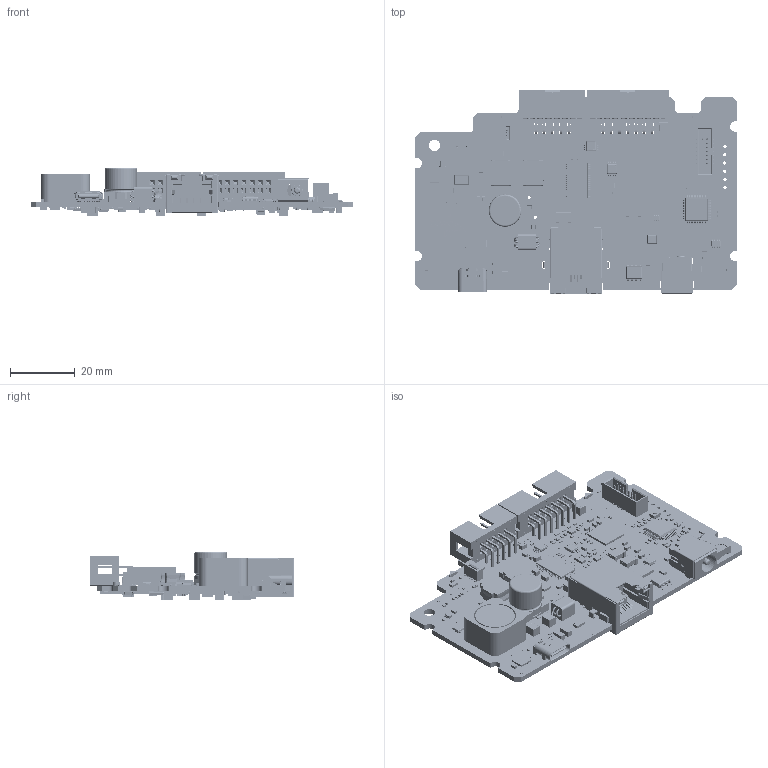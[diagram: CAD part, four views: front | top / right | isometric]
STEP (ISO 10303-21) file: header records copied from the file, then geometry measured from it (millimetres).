
FILE_DESCRIPTION(('Open CASCADE Model'),'2;1');
FILE_NAME('Open CASCADE Shape Model','2025-04-08T14:25:55',('Author'),( 'Open CASCADE'),'Open CASCADE STEP processor 7.5','Open CASCADE 7.5' ,'Unknown');
FILE_SCHEMA(('AUTOMOTIVE_DESIGN { 1 0 10303 214 1 1 1 1 }'));
Length unit declared in the file: millimetre
Products named in the file (698): PCB; Board; Open CASCADE STEP translator 7.5 2.1.1; TP306; 6692509280; Cylinder; R642; resistor0402; R641; R337; R336; 0603; R335; R334; R313; User Library-RES_3216-1206; R311; R305; R138; IC305; SOT-23; BODY-SOT; LEAD-SOT; PIN1-ID; TIEBAR; D305; MSMP package; D301; C341; C0402C331JAGACTU; C339; C0805C106K8RACTU; C338; C323; R609; R608; C626; C0603C222JAGACTU; TP303; L305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
Assembly tree (1261 placements, depth 5):
  PCB
    Board
      Open CASCADE STEP translator 7.5 2.1.1
    TP306
      6692509280
        Cylinder
    R642
      resistor0402
    R641
      resistor0402
    R337
      resistor0402
    R336
      0603
    R335
      resistor0402
    R334
      0603
    R313
      User Library-RES_3216-1206
    R311
      User Library-RES_3216-1206
    R305
      resistor0402
    R138
      resistor0402
    IC305
      SOT-23
        BODY-SOT
        LEAD-SOT  x3
        PIN1-ID
        TIEBAR
    D305
      MSMP package
    D301
      MSMP package
    C341
      C0402C331JAGACTU
    C339
      C0805C106K8RACTU
    C338
      C0805C106K8RACTU
    C323
      C0805C106K8RACTU
    R609
      resistor0402
    R608
      resistor0402
    C626
      C0603C222JAGACTU
    TP303
      6692509280
        Cylinder
    L305
      resistor0402
    L304
      7701281936  x2
        Extruded
      7701286496
        Extruded
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Bounding box: 99.5 x 63.15 x 14.99 mm (x, y, z)
Volume: 18460.3 mm3; surface area: 31970.4 mm2
Topology: 2135 solids, 2135 shells, 50300 faces, 126161 edges, 78770 vertices
Faces by surface type: plane 31695, cylinder 9296, bspline 6414, sphere 2698, cone 77, revolution 70, torus 50
Full cylindrical faces by diameter (mm): 0.28 x1, 0.3 x15, 0.4 x3, 0.408 x1, 0.5 x16, 0.65 x2, 0.75 x5, 0.8 x12, 0.85 x12, 0.95 x2, 1 x114, 1.1 x24, 3.5 x1
Entity records: 377225 total; most frequent: CARTESIAN_POINT 90746, ORIENTED_EDGE 51276, DIRECTION 47100, EDGE_CURVE 25638, LINE 19415, VECTOR 19415, VERTEX_POINT 16646, AXIS2_PLACEMENT_3D 13833
